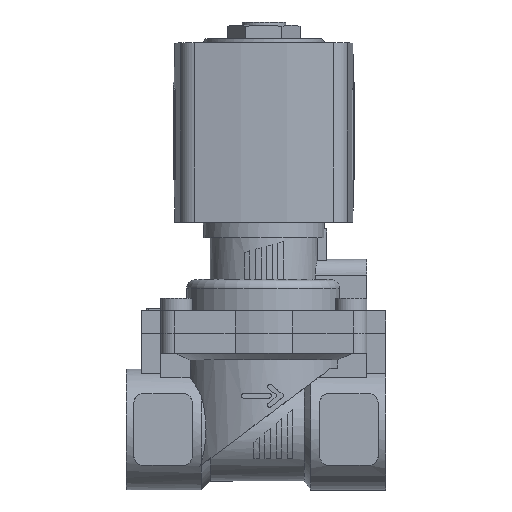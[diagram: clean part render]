
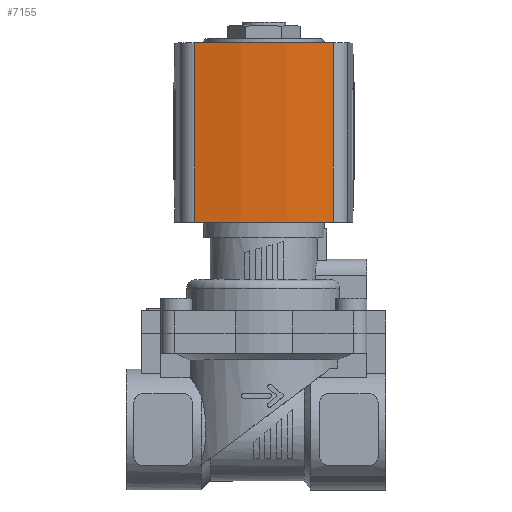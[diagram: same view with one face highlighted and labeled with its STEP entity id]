
A CAD part, top view. The second image highlights one B-rep face of the part: STEP entity #7155.
In plain terms, the highlighted cylindrical face has radius 80 mm (diameter 160 mm), a partial arc.
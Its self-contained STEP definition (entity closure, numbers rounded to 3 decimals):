
#249=CYLINDRICAL_SURFACE('',#7762,80.);
#682=LINE('',#11308,#1206);
#683=LINE('',#11312,#1207);
#1206=VECTOR('',#9302,1000.);
#1207=VECTOR('',#9307,1000.);
#2683=ORIENTED_EDGE('',*,*,#3740,.T.);
#2684=ORIENTED_EDGE('',*,*,#3741,.F.);
#2685=ORIENTED_EDGE('',*,*,#3688,.F.);
#2686=ORIENTED_EDGE('',*,*,#3739,.T.);
#3688=EDGE_CURVE('',#4324,#4325,#4611,.T.);
#3739=EDGE_CURVE('',#4324,#4368,#682,.T.);
#3740=EDGE_CURVE('',#4368,#4369,#4632,.T.);
#3741=EDGE_CURVE('',#4325,#4369,#683,.T.);
#4324=VERTEX_POINT('',#11208);
#4325=VERTEX_POINT('',#11209);
#4368=VERTEX_POINT('',#11307);
#4369=VERTEX_POINT('',#11311);
#4611=CIRCLE('',#7728,80.);
#4632=CIRCLE('',#7763,80.);
#4947=EDGE_LOOP('',(#2683,#2684,#2685,#2686));
#5337=FACE_BOUND('',#4947,.T.);
#7155=ADVANCED_FACE('',(#5337),#249,.T.);
#7728=AXIS2_PLACEMENT_3D('',#11207,#9212,#9213);
#7762=AXIS2_PLACEMENT_3D('',#11309,#9303,#9304);
#7763=AXIS2_PLACEMENT_3D('',#11310,#9305,#9306);
#9212=DIRECTION('',(0.,1.,0.));
#9213=DIRECTION('',(1.,0.,0.));
#9302=DIRECTION('',(0.,-1.,0.));
#9303=DIRECTION('',(0.,-1.,0.));
#9304=DIRECTION('',(0.,0.,-1.));
#9305=DIRECTION('',(0.,1.,0.));
#9306=DIRECTION('',(1.,0.,0.));
#9307=DIRECTION('',(0.,-1.,0.));
#11207=CARTESIAN_POINT('',(-56.5,14.,0.));
#11208=CARTESIAN_POINT('',(21.99,14.,15.472));
#11209=CARTESIAN_POINT('',(21.99,14.,-15.472));
#11307=CARTESIAN_POINT('',(21.99,-26.,15.472));
#11308=CARTESIAN_POINT('',(21.99,14.,15.472));
#11309=CARTESIAN_POINT('',(-56.5,14.,0.));
#11310=CARTESIAN_POINT('',(-56.5,-26.,0.));
#11311=CARTESIAN_POINT('',(21.99,-26.,-15.472));
#11312=CARTESIAN_POINT('',(21.99,14.,-15.472));
